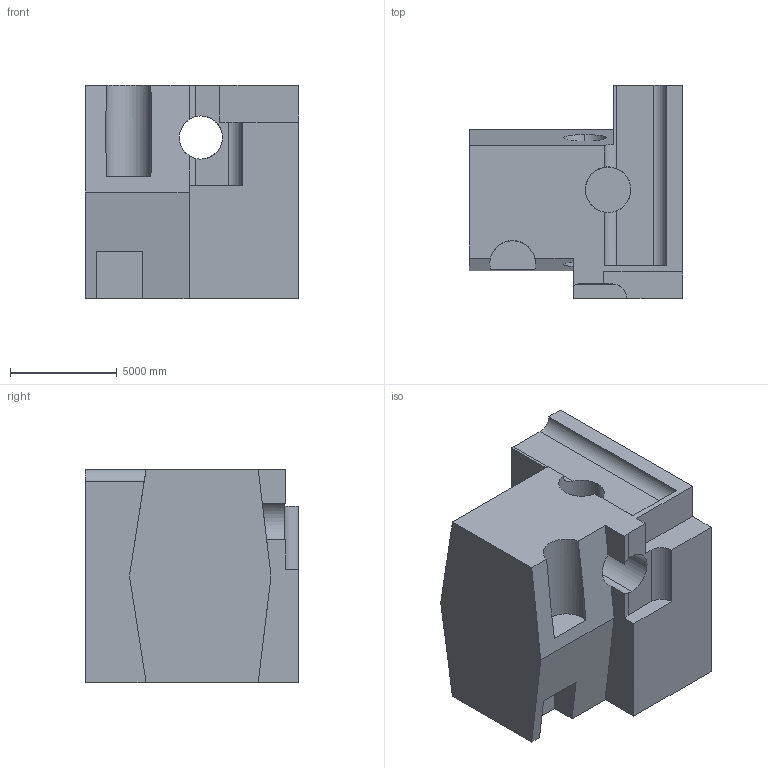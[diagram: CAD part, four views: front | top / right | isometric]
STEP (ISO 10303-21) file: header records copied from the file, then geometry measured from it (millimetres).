
FILE_DESCRIPTION (( 'STEP AP203' ), '1' );
FILE_NAME ('893.STEP', '2022-07-29T14:04:00', ( 'user' ), ( '' ), 'SwSTEP 2.0', 'SolidWorks 2021', '' );
FILE_SCHEMA (( 'CONFIG_CONTROL_DESIGN' ));
Length unit declared in the file: centimetre
Products named in the file (1): 893
Bounding box: 10000 x 10000 x 10000 mm (x, y, z)
Volume: 669540814129.1 mm3; surface area: 628248811.5 mm2
Topology: 1 solids, 1 shells, 39 faces, 117 edges, 78 vertices
Faces by surface type: plane 26, cylinder 13
Entity records: 1938 total; most frequent: CARTESIAN_POINT 812, ORIENTED_EDGE 234, DIRECTION 204, EDGE_CURVE 117, LINE 82, VECTOR 82, VERTEX_POINT 78, AXIS2_PLACEMENT_3D 61
